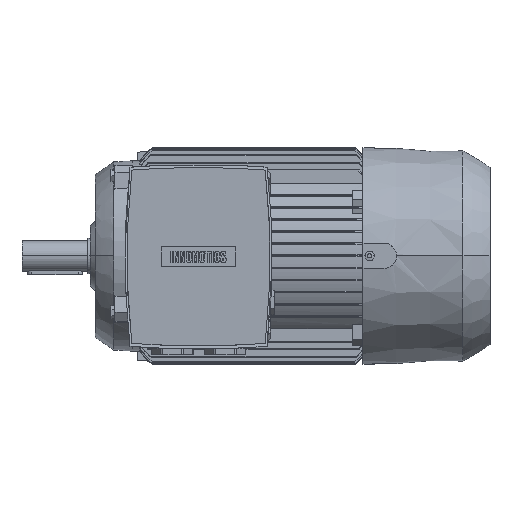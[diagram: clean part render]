
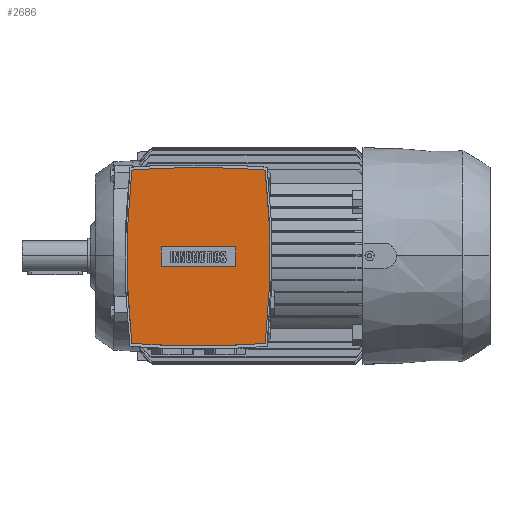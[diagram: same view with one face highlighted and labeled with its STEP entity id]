
A CAD part, top view. The second image highlights one B-rep face of the part: STEP entity #2686.
In plain terms, the highlighted planar face has unit normal (0, 0, 1).
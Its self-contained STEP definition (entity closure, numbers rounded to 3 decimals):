
#2686=ADVANCED_FACE('',(#5834,#5835),#5836,.T.);
#5834=FACE_BOUND('',#9451,.T.);
#5835=FACE_OUTER_BOUND('',#9452,.T.);
#5836=PLANE('',#9453);
#9451=EDGE_LOOP('',(#17890,#17891,#17892,#17893));
#9452=EDGE_LOOP('',(#17894,#17895,#17896,#17897,#17898,#17899));
#9453=AXIS2_PLACEMENT_3D('',#17900,#17901,#17902);
#17890=ORIENTED_EDGE('',*,*,#25296,.T.);
#17891=ORIENTED_EDGE('',*,*,#25300,.T.);
#17892=ORIENTED_EDGE('',*,*,#25303,.T.);
#17893=ORIENTED_EDGE('',*,*,#25305,.T.);
#17894=ORIENTED_EDGE('',*,*,#25373,.T.);
#17895=ORIENTED_EDGE('',*,*,#25364,.T.);
#17896=ORIENTED_EDGE('',*,*,#22722,.T.);
#17897=ORIENTED_EDGE('',*,*,#25360,.T.);
#17898=ORIENTED_EDGE('',*,*,#22707,.T.);
#17899=ORIENTED_EDGE('',*,*,#25371,.T.);
#17900=CARTESIAN_POINT('',(60.0,-1.0,193.0));
#17901=DIRECTION('',(0.0,0.0,1.0));
#17902=DIRECTION('',(0.0,-1.0,0.0));
#22707=EDGE_CURVE('',#27576,#27573,#27577,.T.);
#22722=EDGE_CURVE('',#27598,#27602,#27604,.T.);
#25296=EDGE_CURVE('',#31467,#31465,#31468,.T.);
#25300=EDGE_CURVE('',#31465,#31471,#31473,.T.);
#25303=EDGE_CURVE('',#31471,#31475,#31477,.T.);
#25305=EDGE_CURVE('',#31475,#31467,#31479,.T.);
#25360=EDGE_CURVE('',#27602,#27576,#31557,.T.);
#25364=EDGE_CURVE('',#31561,#27598,#31562,.T.);
#25371=EDGE_CURVE('',#27573,#31569,#31571,.T.);
#25373=EDGE_CURVE('',#31569,#31561,#31573,.T.);
#27573=VERTEX_POINT('',#37296);
#27576=VERTEX_POINT('',#37300);
#27577=CIRCLE('',#37301,828.12);
#27598=VERTEX_POINT('',#37348);
#27602=VERTEX_POINT('',#37353);
#27604=CIRCLE('',#37356,828.12);
#31465=VERTEX_POINT('',#46490);
#31467=VERTEX_POINT('',#46493);
#31468=LINE('',#46494,#46495);
#31471=VERTEX_POINT('',#46499);
#31473=LINE('',#46502,#46503);
#31475=VERTEX_POINT('',#46505);
#31477=LINE('',#46508,#46509);
#31479=LINE('',#46511,#46512);
#31557=CIRCLE('',#46628,717.2);
#31561=VERTEX_POINT('',#46632);
#31562=CIRCLE('',#46633,828.12);
#31569=VERTEX_POINT('',#46642);
#31571=CIRCLE('',#46645,828.12);
#31573=CIRCLE('',#46647,717.2);
#37296=CARTESIAN_POINT('',(60.,80.0,193.0));
#37300=CARTESIAN_POINT('',(120.661,77.775,193.0));
#37301=AXIS2_PLACEMENT_3D('',#50717,#50718,#50719);
#37348=CARTESIAN_POINT('',(60.,-82.0,193.0));
#37353=CARTESIAN_POINT('',(120.661,-79.775,193.0));
#37356=AXIS2_PLACEMENT_3D('',#50741,#50742,#50743);
#46490=CARTESIAN_POINT('',(26.25,-10.05,193.0));
#46493=CARTESIAN_POINT('',(93.75,-10.05,193.0));
#46494=CARTESIAN_POINT('',(60.0,-10.05,193.0));
#46495=VECTOR('',#53348,1.0);
#46499=CARTESIAN_POINT('',(26.25,8.05,193.0));
#46502=CARTESIAN_POINT('',(26.25,-1.0,193.0));
#46503=VECTOR('',#53351,1.0);
#46505=CARTESIAN_POINT('',(93.75,8.05,193.0));
#46508=CARTESIAN_POINT('',(60.0,8.05,193.0));
#46509=VECTOR('',#53353,1.0);
#46511=CARTESIAN_POINT('',(93.75,-1.0,193.0));
#46512=VECTOR('',#53354,1.0);
#46628=AXIS2_PLACEMENT_3D('',#53435,#53436,#53437);
#46632=CARTESIAN_POINT('',(-0.661,-79.775,193.0));
#46633=AXIS2_PLACEMENT_3D('',#53441,#53442,#53443);
#46642=CARTESIAN_POINT('',(-0.661,77.775,193.0));
#46645=AXIS2_PLACEMENT_3D('',#53450,#53451,#53452);
#46647=AXIS2_PLACEMENT_3D('',#53453,#53454,#53455);
#50717=CARTESIAN_POINT('',(60.0,-748.12,193.0));
#50718=DIRECTION('',(0.0,-0.0,1.0));
#50719=DIRECTION('',(0.0,1.0,0.0));
#50741=CARTESIAN_POINT('',(60.0,746.12,193.0));
#50742=DIRECTION('',(0.0,-0.0,1.0));
#50743=DIRECTION('',(0.0,1.0,0.0));
#53348=DIRECTION('',(-1.0,0.0,0.0));
#53351=DIRECTION('',(0.0,1.0,0.0));
#53353=DIRECTION('',(1.0,0.0,-0.0));
#53354=DIRECTION('',(0.0,-1.0,0.0));
#53435=CARTESIAN_POINT('',(-592.2,-1.0,193.0));
#53436=DIRECTION('',(0.0,-0.0,1.0));
#53437=DIRECTION('',(0.0,1.0,0.0));
#53441=CARTESIAN_POINT('',(60.0,746.12,193.0));
#53442=DIRECTION('',(0.0,-0.0,1.0));
#53443=DIRECTION('',(0.0,1.0,0.0));
#53450=CARTESIAN_POINT('',(60.0,-748.12,193.0));
#53451=DIRECTION('',(0.0,-0.0,1.0));
#53452=DIRECTION('',(0.0,1.0,0.0));
#53453=CARTESIAN_POINT('',(712.2,-1.0,193.0));
#53454=DIRECTION('',(0.0,-0.0,1.0));
#53455=DIRECTION('',(0.0,1.0,0.0));
